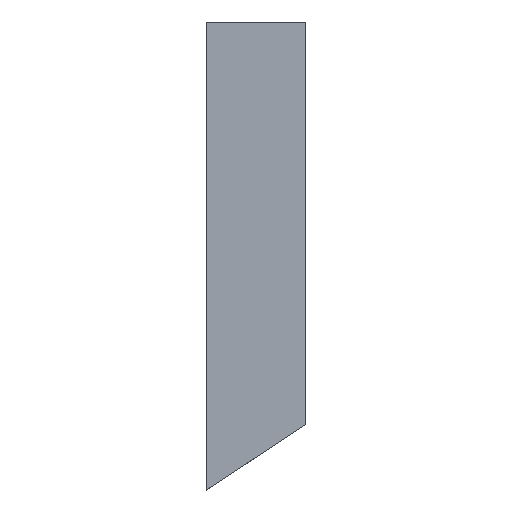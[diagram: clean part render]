
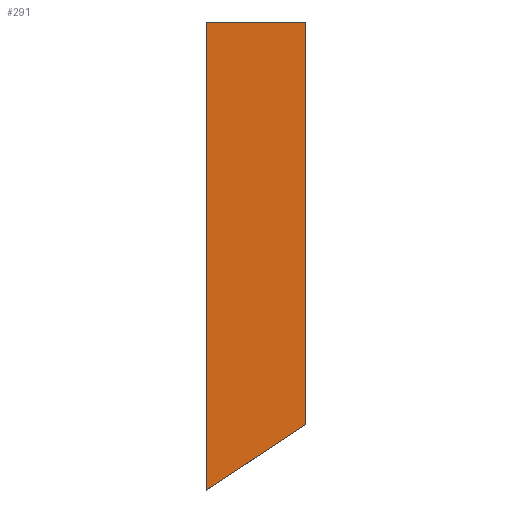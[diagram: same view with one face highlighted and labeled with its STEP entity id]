
A CAD part, top view. The second image highlights one B-rep face of the part: STEP entity #291.
In plain terms, the highlighted planar face has unit normal (0, 0, 1).
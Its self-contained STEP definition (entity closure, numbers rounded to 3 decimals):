
#143=CIRCLE('',#276,4227.498);
#165=ORIENTED_EDGE('',*,*,#200,.T.);
#166=ORIENTED_EDGE('',*,*,#208,.F.);
#167=ORIENTED_EDGE('',*,*,#206,.F.);
#168=ORIENTED_EDGE('',*,*,#203,.F.);
#172=VECTOR('',#226,1.);
#176=VECTOR('',#238,1.);
#178=VECTOR('',#242,1.);
#182=LINE('',#255,#172);
#186=LINE('',#267,#176);
#188=LINE('',#270,#178);
#190=VERTEX_POINT('',#249);
#192=VERTEX_POINT('',#253);
#194=VERTEX_POINT('',#258);
#196=VERTEX_POINT('',#264);
#200=EDGE_CURVE('',#190,#192,#182,.T.);
#203=EDGE_CURVE('',#190,#194,#143,.T.);
#206=EDGE_CURVE('',#194,#196,#186,.T.);
#208=EDGE_CURVE('',#196,#192,#188,.T.);
#214=EDGE_LOOP('',(#165,#166,#167,#168));
#220=FACE_BOUND('',#214,.T.);
#226=DIRECTION('',(0.,221.487,0.));
#232=DIRECTION('',(0.,0.,-1.));
#233=DIRECTION('',(1372.902,-3998.36,0.));
#238=DIRECTION('',(0.,257.604,0.));
#242=DIRECTION('',(55.,0.,0.));
#245=DIRECTION('',(0.,0.,1.));
#246=DIRECTION('',(0.,-1.,0.));
#249=CARTESIAN_POINT('',(799.222,197.263,10.));
#253=CARTESIAN_POINT('',(799.222,418.75,10.));
#255=CARTESIAN_POINT('',(799.222,197.263,10.));
#258=CARTESIAN_POINT('',(744.223,161.146,10.));
#261=CARTESIAN_POINT('',(-1548.679,3712.814,10.));
#264=CARTESIAN_POINT('',(744.223,418.75,10.));
#267=CARTESIAN_POINT('',(744.223,161.146,10.));
#270=CARTESIAN_POINT('',(744.223,418.75,10.));
#272=CARTESIAN_POINT('',(0.,0.,10.));
#276=AXIS2_PLACEMENT_3D('',#261,#232,#233);
#280=AXIS2_PLACEMENT_3D('',#272,#245,#246);
#285=PLANE('',#280);
#291=ADVANCED_FACE('',(#220),#285,.T.);
